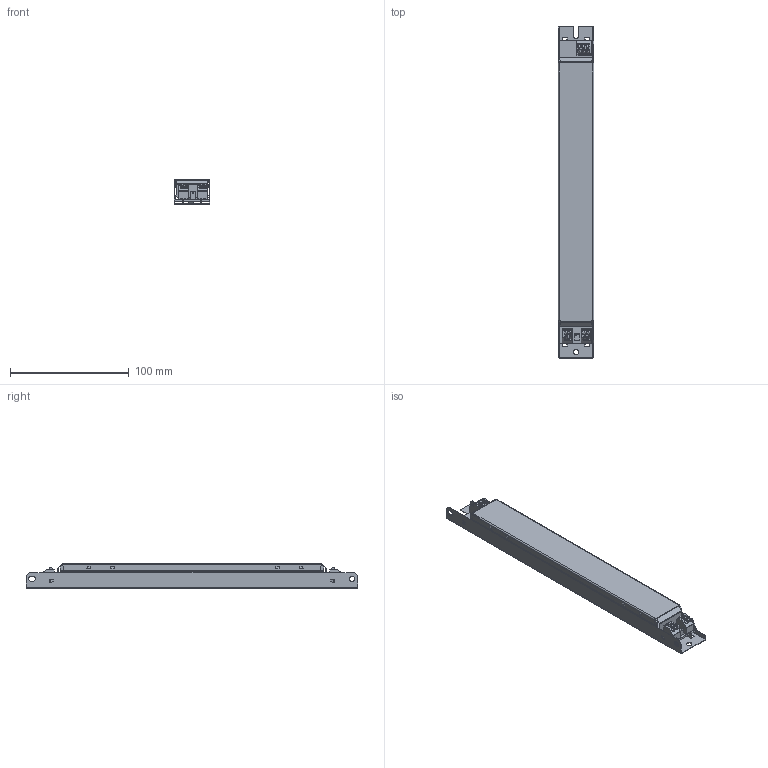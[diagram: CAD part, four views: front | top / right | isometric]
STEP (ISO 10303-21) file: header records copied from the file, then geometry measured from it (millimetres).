
FILE_DESCRIPTION (( 'STEP AP203' ), '1' );
FILE_NAME ('LL1x10-42-E-SN.STEP', '2015-04-22T10:35:36', ( '' ), ( '' ), 'SwSTEP 2.0', 'SolidWorks 2014', '' );
FILE_SCHEMA (( 'CONFIG_CONTROL_DESIGN' ));
Length unit declared in the file: millimetre
Products named in the file (1): LL1x10-42-E-SN
Bounding box: 30.08 x 280 x 20.8 mm (x, y, z)
Surface area: 67942.4 mm2 (no closed solid volume)
Topology: 0 solids, 17 shells, 416 faces, 1640 edges, 1191 vertices
Faces by surface type: plane 280, cylinder 118, cone 14, bspline 4
Entity records: 17156 total; most frequent: CARTESIAN_POINT 3623, DIRECTION 2723, ORIENTED_EDGE 2540, EDGE_CURVE 1640, VECTOR 1229, LINE 1229, VERTEX_POINT 1191, AXIS2_PLACEMENT_3D 747
